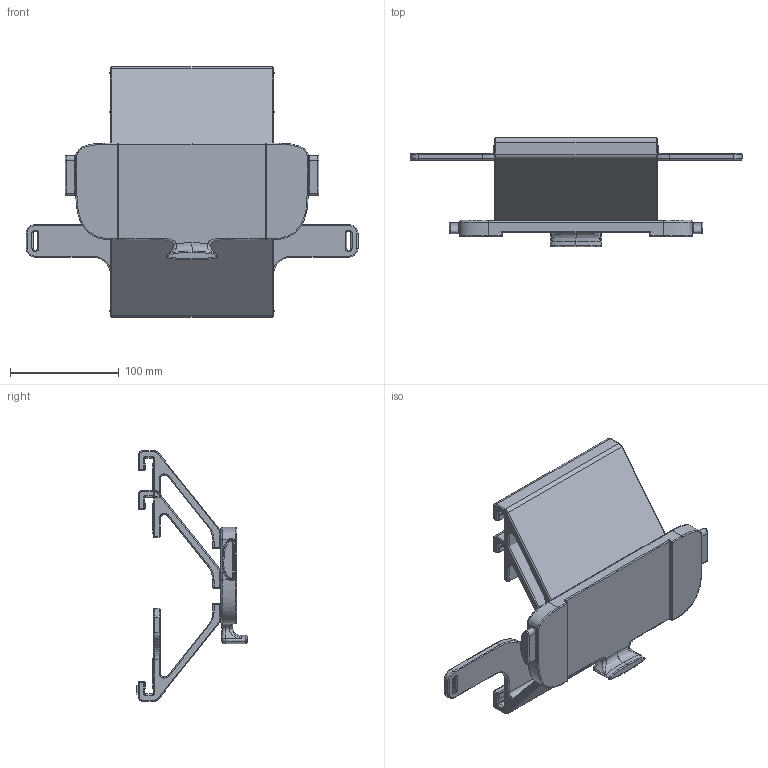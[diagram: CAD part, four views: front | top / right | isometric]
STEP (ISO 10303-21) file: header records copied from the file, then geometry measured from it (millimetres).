
FILE_DESCRIPTION (( 'STEP AP214' ), '1' );
FILE_NAME ('Support_I-Pad_12.9 et 11 pouces_2022-04-04.STEP', '2022-04-04T15:05:12', ( '' ), ( '' ), 'SwSTEP 2.0', 'SolidWorks 2021', '' );
FILE_SCHEMA (( 'AUTOMOTIVE_DESIGN' ));
Length unit declared in the file: millimetre
Products named in the file (1): Support_I-Pad_12.9 et 11 pouces_2022-04-04
Bounding box: 306 x 101.4 x 230.6 mm (x, y, z)
Volume: 814006.3 mm3; surface area: 232420.2 mm2
Topology: 7 solids, 7 shells, 525 faces, 1216 edges, 691 vertices
Faces by surface type: cylinder 184, plane 159, bspline 88, torus 68, sphere 26
Full cylindrical faces by diameter (mm): 3 x18
Entity records: 31573 total; most frequent: CARTESIAN_POINT 17628, ORIENTED_EDGE 2330, DIRECTION 2214, EDGE_CURVE 1165, AXIS2_PLACEMENT_3D 846, VERTEX_POINT 686, EDGE_LOOP 579, FACE_OUTER_BOUND 543
